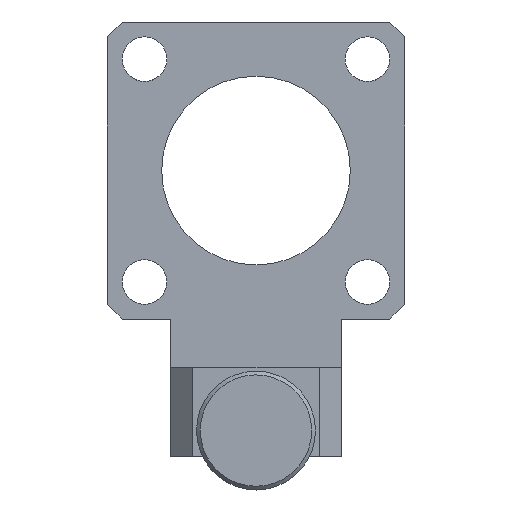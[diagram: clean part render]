
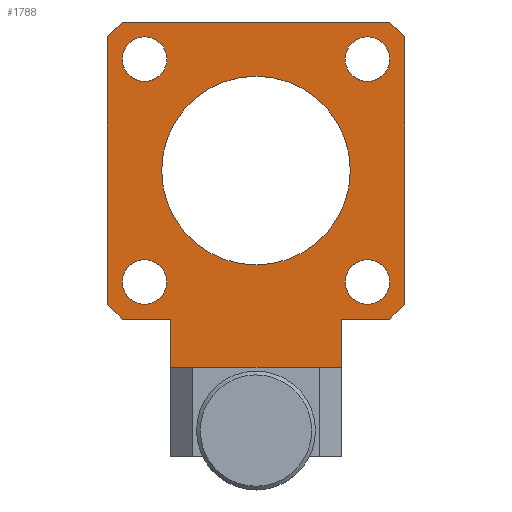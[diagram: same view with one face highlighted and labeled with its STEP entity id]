
A CAD part, front view. The second image highlights one B-rep face of the part: STEP entity #1788.
In plain terms, the highlighted planar face has unit normal (0, -1, 0).
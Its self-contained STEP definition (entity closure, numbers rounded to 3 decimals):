
#51=FACE_BOUND('',#288,.T.);
#52=FACE_BOUND('',#289,.T.);
#53=FACE_BOUND('',#290,.T.);
#54=FACE_BOUND('',#291,.T.);
#55=FACE_BOUND('',#292,.T.);
#117=PLANE('',#1937);
#189=FACE_OUTER_BOUND('',#287,.T.);
#287=EDGE_LOOP('',(#1393,#1394,#1395,#1396,#1397,#1398,#1399,#1400,#1401,
#1402,#1403,#1404));
#288=EDGE_LOOP('',(#1405));
#289=EDGE_LOOP('',(#1406));
#290=EDGE_LOOP('',(#1407));
#291=EDGE_LOOP('',(#1408));
#292=EDGE_LOOP('',(#1409));
#446=LINE('',#2830,#602);
#448=LINE('',#2834,#604);
#451=LINE('',#2840,#607);
#452=LINE('',#2842,#608);
#453=LINE('',#2844,#609);
#454=LINE('',#2846,#610);
#455=LINE('',#2848,#611);
#456=LINE('',#2850,#612);
#457=LINE('',#2852,#613);
#458=LINE('',#2854,#614);
#459=LINE('',#2856,#615);
#460=LINE('',#2857,#616);
#602=VECTOR('',#2295,10.);
#604=VECTOR('',#2299,10.);
#607=VECTOR('',#2304,10.);
#608=VECTOR('',#2305,10.);
#609=VECTOR('',#2306,10.);
#610=VECTOR('',#2307,10.);
#611=VECTOR('',#2308,10.);
#612=VECTOR('',#2309,10.);
#613=VECTOR('',#2310,10.);
#614=VECTOR('',#2311,10.);
#615=VECTOR('',#2312,10.);
#616=VECTOR('',#2313,10.);
#696=CIRCLE('',#1938,3.);
#697=CIRCLE('',#1939,3.);
#698=CIRCLE('',#1940,3.);
#699=CIRCLE('',#1941,3.);
#700=CIRCLE('',#1942,12.7);
#831=VERTEX_POINT('',#2827);
#832=VERTEX_POINT('',#2829);
#833=VERTEX_POINT('',#2833);
#835=VERTEX_POINT('',#2839);
#836=VERTEX_POINT('',#2841);
#837=VERTEX_POINT('',#2843);
#838=VERTEX_POINT('',#2845);
#839=VERTEX_POINT('',#2847);
#840=VERTEX_POINT('',#2849);
#841=VERTEX_POINT('',#2851);
#842=VERTEX_POINT('',#2853);
#843=VERTEX_POINT('',#2855);
#844=VERTEX_POINT('',#2858);
#845=VERTEX_POINT('',#2860);
#846=VERTEX_POINT('',#2862);
#847=VERTEX_POINT('',#2864);
#848=VERTEX_POINT('',#2866);
#1041=EDGE_CURVE('',#831,#832,#446,.T.);
#1043=EDGE_CURVE('',#833,#832,#448,.T.);
#1046=EDGE_CURVE('',#835,#831,#451,.T.);
#1047=EDGE_CURVE('',#836,#835,#452,.T.);
#1048=EDGE_CURVE('',#837,#836,#453,.T.);
#1049=EDGE_CURVE('',#838,#837,#454,.T.);
#1050=EDGE_CURVE('',#839,#838,#455,.T.);
#1051=EDGE_CURVE('',#840,#839,#456,.T.);
#1052=EDGE_CURVE('',#840,#841,#457,.T.);
#1053=EDGE_CURVE('',#841,#842,#458,.T.);
#1054=EDGE_CURVE('',#843,#842,#459,.T.);
#1055=EDGE_CURVE('',#843,#833,#460,.T.);
#1056=EDGE_CURVE('',#844,#844,#696,.T.);
#1057=EDGE_CURVE('',#845,#845,#697,.T.);
#1058=EDGE_CURVE('',#846,#846,#698,.T.);
#1059=EDGE_CURVE('',#847,#847,#699,.T.);
#1060=EDGE_CURVE('',#848,#848,#700,.T.);
#1393=ORIENTED_EDGE('',*,*,#1041,.F.);
#1394=ORIENTED_EDGE('',*,*,#1046,.F.);
#1395=ORIENTED_EDGE('',*,*,#1047,.F.);
#1396=ORIENTED_EDGE('',*,*,#1048,.F.);
#1397=ORIENTED_EDGE('',*,*,#1049,.F.);
#1398=ORIENTED_EDGE('',*,*,#1050,.F.);
#1399=ORIENTED_EDGE('',*,*,#1051,.F.);
#1400=ORIENTED_EDGE('',*,*,#1052,.T.);
#1401=ORIENTED_EDGE('',*,*,#1053,.T.);
#1402=ORIENTED_EDGE('',*,*,#1054,.F.);
#1403=ORIENTED_EDGE('',*,*,#1055,.T.);
#1404=ORIENTED_EDGE('',*,*,#1043,.T.);
#1405=ORIENTED_EDGE('',*,*,#1056,.T.);
#1406=ORIENTED_EDGE('',*,*,#1057,.T.);
#1407=ORIENTED_EDGE('',*,*,#1058,.T.);
#1408=ORIENTED_EDGE('',*,*,#1059,.T.);
#1409=ORIENTED_EDGE('',*,*,#1060,.T.);
#1788=ADVANCED_FACE('',(#189,#51,#52,#53,#54,#55),#117,.F.);
#1937=AXIS2_PLACEMENT_3D('',#2838,#2302,#2303);
#1938=AXIS2_PLACEMENT_3D('',#2859,#2314,#2315);
#1939=AXIS2_PLACEMENT_3D('',#2861,#2316,#2317);
#1940=AXIS2_PLACEMENT_3D('',#2863,#2318,#2319);
#1941=AXIS2_PLACEMENT_3D('',#2865,#2320,#2321);
#1942=AXIS2_PLACEMENT_3D('',#2867,#2322,#2323);
#2295=DIRECTION('',(-0.707,0.,-0.707));
#2299=DIRECTION('',(1.,0.,0.));
#2302=DIRECTION('center_axis',(0.,1.,0.));
#2303=DIRECTION('ref_axis',(0.,0.,
-1.));
#2304=DIRECTION('',(0.,0.,-1.));
#2305=DIRECTION('',(0.707,0.,-0.707));
#2306=DIRECTION('',(1.,0.,0.));
#2307=DIRECTION('',(0.707,0.,0.707));
#2308=DIRECTION('',(0.,0.,1.));
#2309=DIRECTION('',(-0.707,0.,0.707));
#2310=DIRECTION('',(1.,0.,0.));
#2311=DIRECTION('',(0.,0.,-1.));
#2312=DIRECTION('',(-1.,0.,0.));
#2313=DIRECTION('',(0.,0.,1.));
#2314=DIRECTION('center_axis',(0.,1.,0.));
#2315=DIRECTION('ref_axis',(-1.,0.,0.));
#2316=DIRECTION('center_axis',(0.,1.,0.));
#2317=DIRECTION('ref_axis',(-1.,0.,0.));
#2318=DIRECTION('center_axis',(0.,1.,0.));
#2319=DIRECTION('ref_axis',(-1.,0.,0.));
#2320=DIRECTION('center_axis',(0.,1.,0.));
#2321=DIRECTION('ref_axis',(-1.,0.,0.));
#2322=DIRECTION('center_axis',(0.,1.,0.));
#2323=DIRECTION('ref_axis',(-1.,0.,0.));
#2827=CARTESIAN_POINT('',(72.714,73.367,-29.165));
#2829=CARTESIAN_POINT('',(70.714,73.367,-31.165));
#2830=CARTESIAN_POINT('',(70.902,73.367,-30.977));
#2833=CARTESIAN_POINT('',(64.214,73.367,-31.165));
#2834=CARTESIAN_POINT('',(62.714,73.367,-31.165));
#2838=CARTESIAN_POINT('Origin',(52.714,73.367,-14.415));
#2839=CARTESIAN_POINT('',(72.714,73.367,6.835));
#2840=CARTESIAN_POINT('',(72.714,73.367,-32.04));
#2841=CARTESIAN_POINT('',(70.714,73.367,8.835));
#2842=CARTESIAN_POINT('',(72.527,73.367,7.023));
#2843=CARTESIAN_POINT('',(34.714,73.367,8.835));
#2844=CARTESIAN_POINT('',(62.714,73.367,8.835));
#2845=CARTESIAN_POINT('',(32.714,73.367,6.835));
#2846=CARTESIAN_POINT('',(32.902,73.367,7.023));
#2847=CARTESIAN_POINT('',(32.714,73.367,-29.165));
#2848=CARTESIAN_POINT('',(32.714,73.367,-2.79));
#2849=CARTESIAN_POINT('',(34.714,73.367,-31.165));
#2850=CARTESIAN_POINT('',(34.527,73.367,-30.977));
#2851=CARTESIAN_POINT('',(41.214,73.367,-31.165));
#2852=CARTESIAN_POINT('',(46.964,73.367,-31.165));
#2853=CARTESIAN_POINT('',(41.214,73.367,-37.665));
#2854=CARTESIAN_POINT('',(41.214,73.367,-32.04));
#2855=CARTESIAN_POINT('',(64.214,73.367,-37.665));
#2856=CARTESIAN_POINT('',(72.714,73.367,-37.665));
#2857=CARTESIAN_POINT('',(64.214,73.367,-22.79));
#2858=CARTESIAN_POINT('',(70.714,73.367,3.835));
#2859=CARTESIAN_POINT('Origin',(67.714,73.367,3.835));
#2860=CARTESIAN_POINT('',(40.714,73.367,3.835));
#2861=CARTESIAN_POINT('Origin',(37.714,73.367,3.835));
#2862=CARTESIAN_POINT('',(70.714,73.367,-26.165));
#2863=CARTESIAN_POINT('Origin',(67.714,73.367,-26.165));
#2864=CARTESIAN_POINT('',(40.714,73.367,-26.165));
#2865=CARTESIAN_POINT('Origin',(37.714,73.367,-26.165));
#2866=CARTESIAN_POINT('',(65.414,73.367,-11.165));
#2867=CARTESIAN_POINT('Origin',(52.714,73.367,-11.165));
